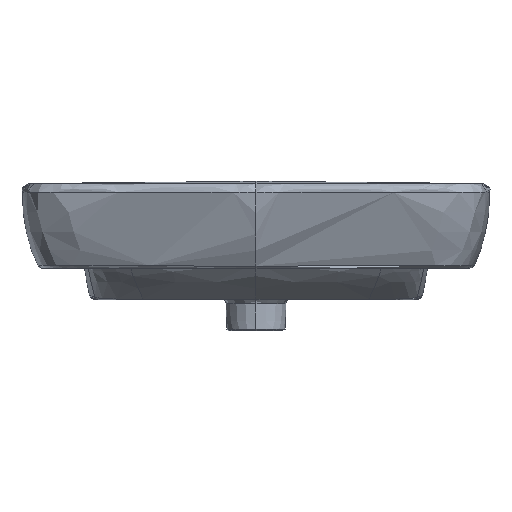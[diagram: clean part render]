
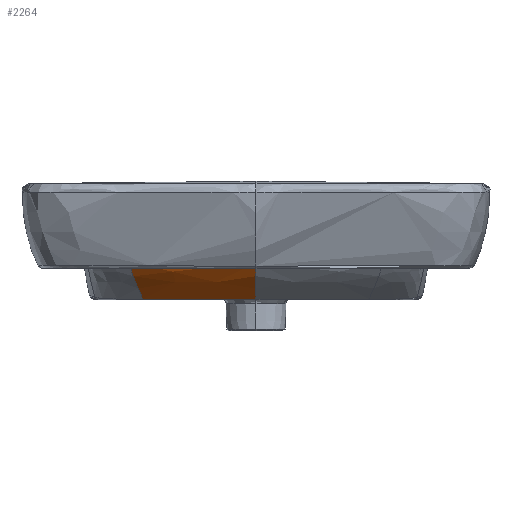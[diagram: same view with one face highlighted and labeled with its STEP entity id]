
A CAD part, front view. The second image highlights one B-rep face of the part: STEP entity #2264.
In plain terms, the highlighted free-form (B-spline) face has degree [3, 3] with [4, 9] control points.
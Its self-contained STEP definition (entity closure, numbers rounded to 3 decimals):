
#38=(
BOUNDED_CURVE()
B_SPLINE_CURVE(3,(#55950,#55951,#55952,#55953,#55954,#55955,#55956),
 .UNSPECIFIED.,.F.,.F.)
B_SPLINE_CURVE_WITH_KNOTS((4,1,1,1,4),(0.,0.208,0.442,
0.705,1.),.UNSPECIFIED.)
CURVE()
GEOMETRIC_REPRESENTATION_ITEM()
RATIONAL_B_SPLINE_CURVE((1.054,1.054,1.054,1.054,
1.054,1.054,1.054))
REPRESENTATION_ITEM('')
);
#271=B_SPLINE_CURVE_WITH_KNOTS('',3,(#49046,#49047,#49048,#49049,#49050,
#49051),.UNSPECIFIED.,.F.,.F.,(4,1,1,4),(0.,0.215,0.487,
1.),.UNSPECIFIED.);
#283=B_SPLINE_CURVE_WITH_KNOTS('',3,(#51815,#51816,#51817,#51818),
 .UNSPECIFIED.,.F.,.F.,(4,4),(0.,1.),.UNSPECIFIED.);
#297=B_SPLINE_CURVE_WITH_KNOTS('',3,(#55938,#55939,#55940,#55941,#55942,
#55943,#55944,#55945,#55946,#55947,#55948,#55949),.UNSPECIFIED.,.F.,.F.,
(4,2,2,2,2,4),(0.,0.118,0.434,0.727,
0.879,1.),.UNSPECIFIED.);
#341=B_SPLINE_SURFACE_WITH_KNOTS('',3,3,((#55902,#55903,#55904,#55905,#55906,
#55907,#55908,#55909,#55910),(#55911,#55912,#55913,#55914,#55915,#55916,
#55917,#55918,#55919),(#55920,#55921,#55922,#55923,#55924,#55925,#55926,
#55927,#55928),(#55929,#55930,#55931,#55932,#55933,#55934,#55935,#55936,
#55937)),.UNSPECIFIED.,.F.,.F.,.F.,(4,4),(4,3,1,1,4),(0.,1.),(0.,0.01,
0.519,0.787,1.),.UNSPECIFIED.);
#485=FACE_OUTER_BOUND('',#623,.T.);
#623=EDGE_LOOP('',(#1947,#1948,#1949,#1950));
#978=VERTEX_POINT('',#48952);
#979=VERTEX_POINT('',#49045);
#991=VERTEX_POINT('',#51758);
#992=VERTEX_POINT('',#51814);
#1273=EDGE_CURVE('',#979,#978,#271,.T.);
#1298=EDGE_CURVE('',#991,#992,#283,.T.);
#1325=EDGE_CURVE('',#992,#978,#297,.T.);
#1326=EDGE_CURVE('',#979,#991,#38,.T.);
#1947=ORIENTED_EDGE('',*,*,#1273,.T.);
#1948=ORIENTED_EDGE('',*,*,#1325,.F.);
#1949=ORIENTED_EDGE('',*,*,#1298,.F.);
#1950=ORIENTED_EDGE('',*,*,#1326,.F.);
#2264=ADVANCED_FACE('',(#485),#341,.F.);
#48952=CARTESIAN_POINT('',(-132.465,-304.613,712.02));
#49045=CARTESIAN_POINT('',(-149.341,-354.956,755.055));
#49046=CARTESIAN_POINT('Ctrl Pts',(-149.341,-354.956,
755.055));
#49047=CARTESIAN_POINT('Ctrl Pts',(-148.131,-352.062,
751.305));
#49048=CARTESIAN_POINT('Ctrl Pts',(-145.395,-345.002,
743.154));
#49049=CARTESIAN_POINT('Ctrl Pts',(-139.771,-328.607,
727.986));
#49050=CARTESIAN_POINT('Ctrl Pts',(-135.353,-314.18,
717.965));
#49051=CARTESIAN_POINT('Ctrl Pts',(-132.465,-304.613,
712.02));
#51758=CARTESIAN_POINT('',(0.,-363.678,754.927));
#51814=CARTESIAN_POINT('',(-0.002,-311.65,711.972));
#51815=CARTESIAN_POINT('Ctrl Pts',(0.,-363.678,
754.927));
#51816=CARTESIAN_POINT('Ctrl Pts',(0.,-349.891,
737.212));
#51817=CARTESIAN_POINT('Ctrl Pts',(0.,-331.06,
723.337));
#51818=CARTESIAN_POINT('Ctrl Pts',(0.,-311.65,
711.972));
#55902=CARTESIAN_POINT('Ctrl Pts',(0.,-311.066,
711.631));
#55903=CARTESIAN_POINT('Ctrl Pts',(0.,-311.261,
711.745));
#55904=CARTESIAN_POINT('Ctrl Pts',(0.,-311.455,
711.858));
#55905=CARTESIAN_POINT('Ctrl Pts',(0.,-311.649,
711.972));
#55906=CARTESIAN_POINT('Ctrl Pts',(0.,-321.637,
717.82));
#55907=CARTESIAN_POINT('Ctrl Pts',(0.,-336.658,
727.767));
#55908=CARTESIAN_POINT('Ctrl Pts',(0.,-353.531,
742.953));
#55909=CARTESIAN_POINT('Ctrl Pts',(0.,-360.765,
751.178));
#55910=CARTESIAN_POINT('Ctrl Pts',(0.,-363.731,
754.995));
#55911=CARTESIAN_POINT('Ctrl Pts',(-44.131,-311.065,
711.63));
#55912=CARTESIAN_POINT('Ctrl Pts',(-44.15,-311.259,
711.743));
#55913=CARTESIAN_POINT('Ctrl Pts',(-44.169,-311.453,711.857));
#55914=CARTESIAN_POINT('Ctrl Pts',(-44.188,-311.647,
711.971));
#55915=CARTESIAN_POINT('Ctrl Pts',(-45.179,-321.621,
717.81));
#55916=CARTESIAN_POINT('Ctrl Pts',(-46.692,-336.632,
727.746));
#55917=CARTESIAN_POINT('Ctrl Pts',(-48.618,-353.536,
742.956));
#55918=CARTESIAN_POINT('Ctrl Pts',(-49.554,-360.774,
751.19));
#55919=CARTESIAN_POINT('Ctrl Pts',(-49.968,-363.736,
755.001));
#55920=CARTESIAN_POINT('Ctrl Pts',(-87.93,-309.426,
711.634));
#55921=CARTESIAN_POINT('Ctrl Pts',(-87.971,-309.62,
711.748));
#55922=CARTESIAN_POINT('Ctrl Pts',(-88.013,-309.815,
711.862));
#55923=CARTESIAN_POINT('Ctrl Pts',(-88.054,-310.009,
711.977));
#55924=CARTESIAN_POINT('Ctrl Pts',(-90.183,-319.995,
717.851));
#55925=CARTESIAN_POINT('Ctrl Pts',(-93.438,-335.038,
727.814));
#55926=CARTESIAN_POINT('Ctrl Pts',(-97.58,-352.073,
743.024));
#55927=CARTESIAN_POINT('Ctrl Pts',(-99.593,-359.391,
751.232));
#55928=CARTESIAN_POINT('Ctrl Pts',(-100.483,-362.39,755.021));
#55929=CARTESIAN_POINT('Ctrl Pts',(-132.281,-304.005,
711.642));
#55930=CARTESIAN_POINT('Ctrl Pts',(-132.337,-304.191,
711.758));
#55931=CARTESIAN_POINT('Ctrl Pts',(-132.393,-304.378,
711.874));
#55932=CARTESIAN_POINT('Ctrl Pts',(-132.45,-304.564,711.99));
#55933=CARTESIAN_POINT('Ctrl Pts',(-135.343,-314.147,717.942));
#55934=CARTESIAN_POINT('Ctrl Pts',(-139.766,-328.592,727.973));
#55935=CARTESIAN_POINT('Ctrl Pts',(-145.395,-345.002,743.154));
#55936=CARTESIAN_POINT('Ctrl Pts',(-148.131,-352.062,751.305));
#55937=CARTESIAN_POINT('Ctrl Pts',(-149.341,-354.956,755.055));
#55938=CARTESIAN_POINT('Ctrl Pts',(-0.002,-311.65,
711.972));
#55939=CARTESIAN_POINT('Ctrl Pts',(-5.203,-311.65,
711.972));
#55940=CARTESIAN_POINT('Ctrl Pts',(-10.404,-311.627,
711.972));
#55941=CARTESIAN_POINT('Ctrl Pts',(-29.595,-311.443,
711.972));
#55942=CARTESIAN_POINT('Ctrl Pts',(-43.584,-311.117,
711.971));
#55943=CARTESIAN_POINT('Ctrl Pts',(-70.524,-309.995,
711.974));
#55944=CARTESIAN_POINT('Ctrl Pts',(-83.476,-309.234,
711.977));
#55945=CARTESIAN_POINT('Ctrl Pts',(-103.111,-307.675,
711.99));
#55946=CARTESIAN_POINT('Ctrl Pts',(-109.81,-307.071,711.995));
#55947=CARTESIAN_POINT('Ctrl Pts',(-121.827,-305.848,
712.008));
#55948=CARTESIAN_POINT('Ctrl Pts',(-127.148,-305.257,
712.014));
#55949=CARTESIAN_POINT('Ctrl Pts',(-132.465,-304.613,
712.02));
#55950=CARTESIAN_POINT('Ctrl Pts',(-149.341,-354.956,
755.055));
#55951=CARTESIAN_POINT('Ctrl Pts',(-139.101,-356.513,755.046));
#55952=CARTESIAN_POINT('Ctrl Pts',(-117.248,-359.238,755.022));
#55953=CARTESIAN_POINT('Ctrl Pts',(-82.19,-361.966,
754.979));
#55954=CARTESIAN_POINT('Ctrl Pts',(-42.669,-363.463,
754.939));
#55955=CARTESIAN_POINT('Ctrl Pts',(-14.764,-363.678,
754.927));
#55956=CARTESIAN_POINT('Ctrl Pts',(0.,-363.678,
754.927));
